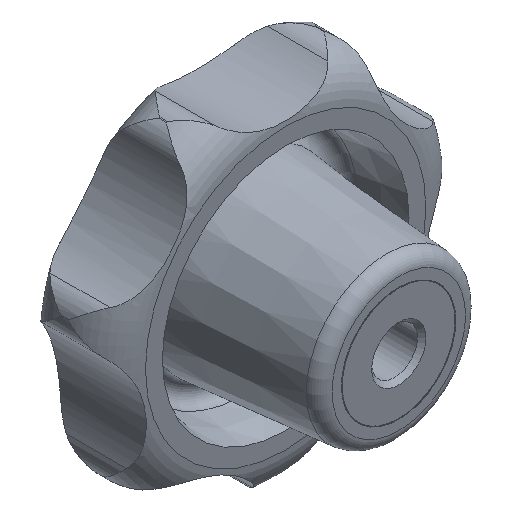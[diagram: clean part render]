
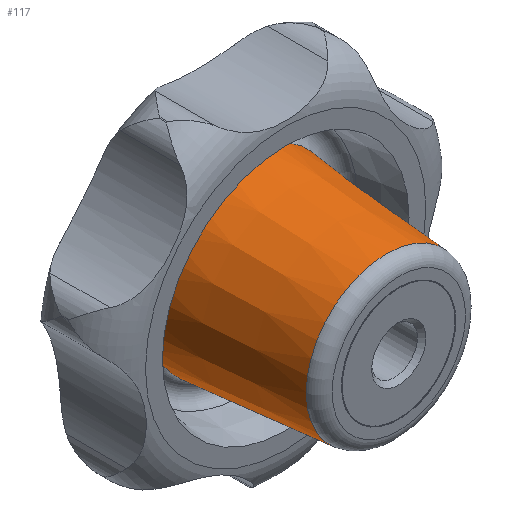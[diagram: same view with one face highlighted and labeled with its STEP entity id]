
A CAD part, isometric view. The second image highlights one B-rep face of the part: STEP entity #117.
In plain terms, the highlighted conical face has half-angle 5 degrees and reference radius 20.535 mm.
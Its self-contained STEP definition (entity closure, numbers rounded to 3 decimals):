
#117 = ADVANCED_FACE( '', ( #222, #223 ), #224, .T. );
#222 = FACE_BOUND( '', #337, .T. );
#223 = FACE_OUTER_BOUND( '', #338, .T. );
#224 = CONICAL_SURFACE( '', #339, 20.535, 0.087 );
#337 = EDGE_LOOP( '', ( #688 ) );
#338 = EDGE_LOOP( '', ( #689 ) );
#339 = AXIS2_PLACEMENT_3D( '', #690, #691, #692 );
#688 = ORIENTED_EDGE( '', *, *, #861, .F. );
#689 = ORIENTED_EDGE( '', *, *, #862, .T. );
#690 = CARTESIAN_POINT( '', ( 0., 34.797, 0. ) );
#691 = DIRECTION( '', ( 0., 1., 0. ) );
#692 = DIRECTION( '', ( 0., 0., 1. ) );
#861 = EDGE_CURVE( '', #1061, #1061, #1062, .T. );
#862 = EDGE_CURVE( '', #1063, #1063, #1064, .T. );
#1061 = VERTEX_POINT( '', #2222 );
#1062 = CIRCLE( '', #2223, 17.73 );
#1063 = VERTEX_POINT( '', #2224 );
#1064 = CIRCLE( '', #2225, 20.535 );
#2222 = CARTESIAN_POINT( '', ( 0., 2.739, -17.73 ) );
#2223 = AXIS2_PLACEMENT_3D( '', #2350, #2351, #2352 );
#2224 = CARTESIAN_POINT( '', ( 0., 34.797, -20.535 ) );
#2225 = AXIS2_PLACEMENT_3D( '', #2353, #2354, #2355 );
#2350 = CARTESIAN_POINT( '', ( 0., 2.739, 0. ) );
#2351 = DIRECTION( '', ( 0., -1., 0. ) );
#2352 = DIRECTION( '', ( 0., 0., -1. ) );
#2353 = CARTESIAN_POINT( '', ( 0., 34.797, 0. ) );
#2354 = DIRECTION( '', ( 0., -1., 0. ) );
#2355 = DIRECTION( '', ( 0., 0., -1. ) );
